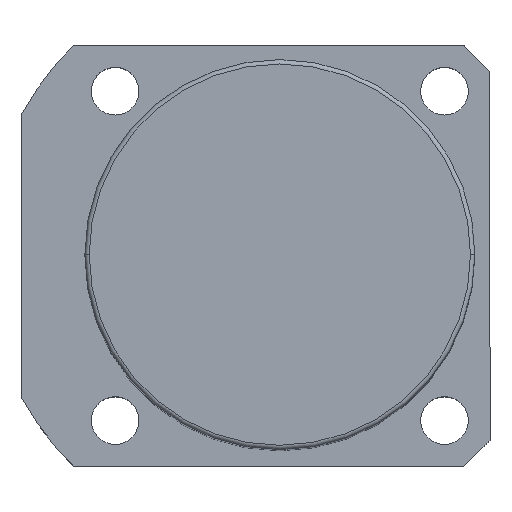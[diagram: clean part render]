
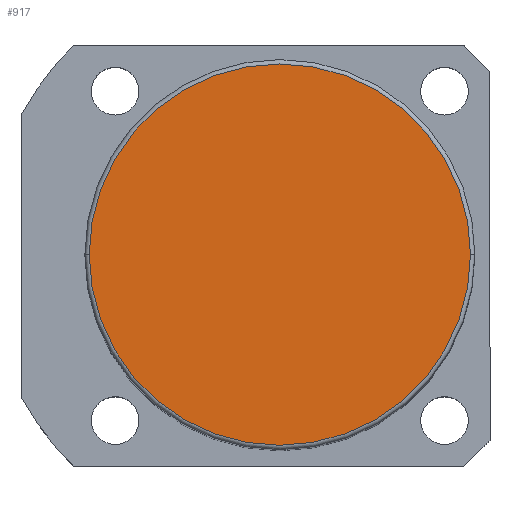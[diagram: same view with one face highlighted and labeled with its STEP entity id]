
A CAD part, top view. The second image highlights one B-rep face of the part: STEP entity #917.
In plain terms, the highlighted planar face has unit normal (0, 0, 1).
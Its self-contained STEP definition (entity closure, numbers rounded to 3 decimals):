
#23 = CARTESIAN_POINT ( 'NONE',  ( 44., 0., 181.5 ) ) ;
#90 = EDGE_CURVE ( 'NONE', #1791, #1453, #851, .T. ) ;
#126 = DIRECTION ( 'NONE',  ( 0., 0., 1. ) ) ;
#137 = AXIS2_PLACEMENT_3D ( 'NONE', #1279, #1117, #1147 ) ;
#284 = EDGE_LOOP ( 'NONE', ( #1157, #1618 ) ) ;
#341 = CIRCLE ( 'NONE', #1390, 44. ) ;
#398 = CARTESIAN_POINT ( 'NONE',  ( 0., 0., 181.5 ) ) ;
#560 = CARTESIAN_POINT ( 'NONE',  ( 0., 0., 181.5 ) ) ;
#683 = EDGE_CURVE ( 'NONE', #1453, #1791, #341, .T. ) ;
#851 = CIRCLE ( 'NONE', #1303, 44. ) ;
#917 = ADVANCED_FACE ( 'NONE', ( #1443 ), #1002, .T. ) ;
#1002 = PLANE ( 'NONE',  #137 ) ;
#1117 = DIRECTION ( 'NONE',  ( 0., 0., 1. ) ) ;
#1147 = DIRECTION ( 'NONE',  ( 1., 0., 0. ) ) ;
#1157 = ORIENTED_EDGE ( 'NONE', *, *, #683, .T. ) ;
#1232 = DIRECTION ( 'NONE',  ( 1., 0., 0. ) ) ;
#1279 = CARTESIAN_POINT ( 'NONE',  ( 0., 0., 181.5 ) ) ;
#1303 = AXIS2_PLACEMENT_3D ( 'NONE', #398, #1656, #1803 ) ;
#1390 = AXIS2_PLACEMENT_3D ( 'NONE', #560, #126, #1232 ) ;
#1443 = FACE_OUTER_BOUND ( 'NONE', #284, .T. ) ;
#1453 = VERTEX_POINT ( 'NONE', #23 ) ;
#1579 = CARTESIAN_POINT ( 'NONE',  ( -44., 0., 181.5 ) ) ;
#1618 = ORIENTED_EDGE ( 'NONE', *, *, #90, .T. ) ;
#1656 = DIRECTION ( 'NONE',  ( 0., 0., 1. ) ) ;
#1791 = VERTEX_POINT ( 'NONE', #1579 ) ;
#1803 = DIRECTION ( 'NONE',  ( 1., 0., 0. ) ) ;
